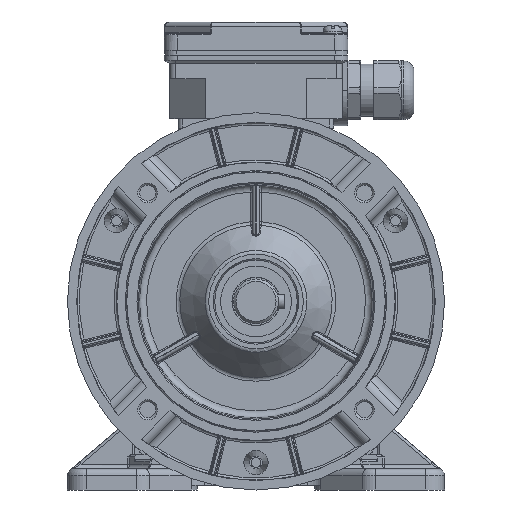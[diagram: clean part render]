
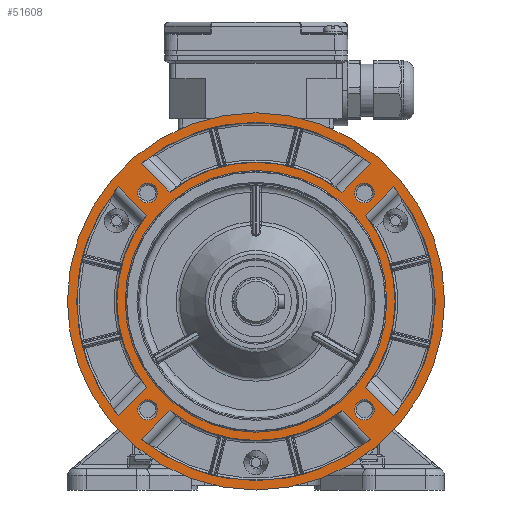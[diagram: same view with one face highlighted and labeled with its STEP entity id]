
A CAD part, left-side view. The second image highlights one B-rep face of the part: STEP entity #51608.
In plain terms, the highlighted planar face has unit normal (-1, 0, 0).
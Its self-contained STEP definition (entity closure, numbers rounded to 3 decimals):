
#5189=LINE('',#105667,#8837);
#5190=LINE('',#105676,#8838);
#5191=LINE('',#105695,#8839);
#5192=LINE('',#105704,#8840);
#5193=LINE('',#105711,#8841);
#5194=LINE('',#105730,#8842);
#5195=LINE('',#105751,#8843);
#5196=LINE('',#105760,#8844);
#8837=VECTOR('',#87304,1000.);
#8838=VECTOR('',#87311,1000.);
#8839=VECTOR('',#87318,1000.);
#8840=VECTOR('',#87325,1000.);
#8841=VECTOR('',#87328,1000.);
#8842=VECTOR('',#87335,1000.);
#8843=VECTOR('',#87346,1000.);
#8844=VECTOR('',#87353,1000.);
#10729=PLANE('',#76626);
#21807=ORIENTED_EDGE('',*,*,#32567,.T.);
#21808=ORIENTED_EDGE('',*,*,#32326,.T.);
#21809=ORIENTED_EDGE('',*,*,#32325,.T.);
#21810=ORIENTED_EDGE('',*,*,#32324,.T.);
#21811=ORIENTED_EDGE('',*,*,#32323,.T.);
#21812=ORIENTED_EDGE('',*,*,#32322,.T.);
#21813=ORIENTED_EDGE('',*,*,#32321,.T.);
#21814=ORIENTED_EDGE('',*,*,#32319,.T.);
#21815=ORIENTED_EDGE('',*,*,#32318,.F.);
#21816=ORIENTED_EDGE('',*,*,#32315,.F.);
#21817=ORIENTED_EDGE('',*,*,#32313,.T.);
#21818=ORIENTED_EDGE('',*,*,#32312,.F.);
#21819=ORIENTED_EDGE('',*,*,#32309,.F.);
#21820=ORIENTED_EDGE('',*,*,#32307,.T.);
#21821=ORIENTED_EDGE('',*,*,#32305,.T.);
#21822=ORIENTED_EDGE('',*,*,#32303,.T.);
#21823=ORIENTED_EDGE('',*,*,#32302,.F.);
#21824=ORIENTED_EDGE('',*,*,#32299,.F.);
#21825=ORIENTED_EDGE('',*,*,#32297,.T.);
#21826=ORIENTED_EDGE('',*,*,#32295,.T.);
#21827=ORIENTED_EDGE('',*,*,#32294,.F.);
#21828=ORIENTED_EDGE('',*,*,#32291,.F.);
#32291=EDGE_CURVE('',#38474,#38475,#41857,.T.);
#32294=EDGE_CURVE('',#38475,#38476,#5189,.T.);
#32295=EDGE_CURVE('',#38477,#38476,#41858,.T.);
#32297=EDGE_CURVE('',#38474,#38477,#5190,.T.);
#32299=EDGE_CURVE('',#38478,#38479,#41859,.T.);
#32302=EDGE_CURVE('',#38479,#38480,#5191,.T.);
#32303=EDGE_CURVE('',#38481,#38480,#41860,.T.);
#32305=EDGE_CURVE('',#38478,#38481,#5192,.T.);
#32307=EDGE_CURVE('',#38483,#38482,#5193,.T.);
#32309=EDGE_CURVE('',#38483,#38484,#41861,.T.);
#32312=EDGE_CURVE('',#38484,#38485,#5194,.T.);
#32313=EDGE_CURVE('',#38482,#38485,#41862,.T.);
#32315=EDGE_CURVE('',#38486,#38487,#41863,.T.);
#32318=EDGE_CURVE('',#38487,#38488,#5195,.T.);
#32319=EDGE_CURVE('',#38489,#38488,#41864,.T.);
#32321=EDGE_CURVE('',#38486,#38489,#5196,.T.);
#32322=EDGE_CURVE('',#38490,#38490,#41865,.T.);
#32323=EDGE_CURVE('',#38491,#38491,#41866,.F.);
#32324=EDGE_CURVE('',#38492,#38492,#41867,.F.);
#32325=EDGE_CURVE('',#38493,#38493,#41868,.F.);
#32326=EDGE_CURVE('',#38494,#38494,#41869,.F.);
#32567=EDGE_CURVE('',#38627,#38627,#41934,.F.);
#38474=VERTEX_POINT('',#105654);
#38475=VERTEX_POINT('',#105656);
#38476=VERTEX_POINT('',#105666);
#38477=VERTEX_POINT('',#105670);
#38478=VERTEX_POINT('',#105682);
#38479=VERTEX_POINT('',#105684);
#38480=VERTEX_POINT('',#105694);
#38481=VERTEX_POINT('',#105698);
#38482=VERTEX_POINT('',#105710);
#38483=VERTEX_POINT('',#105712);
#38484=VERTEX_POINT('',#105719);
#38485=VERTEX_POINT('',#105729);
#38486=VERTEX_POINT('',#105738);
#38487=VERTEX_POINT('',#105740);
#38488=VERTEX_POINT('',#105750);
#38489=VERTEX_POINT('',#105754);
#38490=VERTEX_POINT('',#105763);
#38491=VERTEX_POINT('',#105766);
#38492=VERTEX_POINT('',#105769);
#38493=VERTEX_POINT('',#105772);
#38494=VERTEX_POINT('',#105775);
#38627=VERTEX_POINT('',#106418);
#41857=CIRCLE('',#76407,76.);
#41858=CIRCLE('',#76410,59.);
#41859=CIRCLE('',#76413,76.);
#41860=CIRCLE('',#76416,59.);
#41861=CIRCLE('',#76420,76.);
#41862=CIRCLE('',#76423,59.);
#41863=CIRCLE('',#76425,76.);
#41864=CIRCLE('',#76428,59.);
#41865=CIRCLE('',#76431,80.);
#41866=CIRCLE('',#76433,4.2);
#41867=CIRCLE('',#76435,4.2);
#41868=CIRCLE('',#76437,4.2);
#41869=CIRCLE('',#76439,4.2);
#41934=CIRCLE('',#76627,55.5);
#44901=EDGE_LOOP('',(#21807));
#44902=EDGE_LOOP('',(#21808));
#44903=EDGE_LOOP('',(#21809));
#44904=EDGE_LOOP('',(#21810));
#44905=EDGE_LOOP('',(#21811));
#44906=EDGE_LOOP('',(#21812));
#44907=EDGE_LOOP('',(#21813,#21814,#21815,#21816));
#44908=EDGE_LOOP('',(#21817,#21818,#21819,#21820));
#44909=EDGE_LOOP('',(#21821,#21822,#21823,#21824));
#44910=EDGE_LOOP('',(#21825,#21826,#21827,#21828));
#48384=FACE_BOUND('',#44901,.T.);
#48385=FACE_BOUND('',#44902,.T.);
#48386=FACE_BOUND('',#44903,.T.);
#48387=FACE_BOUND('',#44904,.T.);
#48388=FACE_BOUND('',#44905,.T.);
#48389=FACE_BOUND('',#44906,.T.);
#48390=FACE_BOUND('',#44907,.T.);
#48391=FACE_BOUND('',#44908,.T.);
#48392=FACE_BOUND('',#44909,.T.);
#48393=FACE_BOUND('',#44910,.T.);
#51608=ADVANCED_FACE('',(#48384,#48385,#48386,#48387,#48388,#48389,#48390,
#48391,#48392,#48393),#10729,.T.);
#76407=AXIS2_PLACEMENT_3D('',#105655,#87300,#87301);
#76410=AXIS2_PLACEMENT_3D('',#105669,#87307,#87308);
#76413=AXIS2_PLACEMENT_3D('',#105683,#87314,#87315);
#76416=AXIS2_PLACEMENT_3D('',#105697,#87321,#87322);
#76420=AXIS2_PLACEMENT_3D('',#105718,#87331,#87332);
#76423=AXIS2_PLACEMENT_3D('',#105732,#87338,#87339);
#76425=AXIS2_PLACEMENT_3D('',#105739,#87342,#87343);
#76428=AXIS2_PLACEMENT_3D('',#105753,#87349,#87350);
#76431=AXIS2_PLACEMENT_3D('',#105762,#87356,#87357);
#76433=AXIS2_PLACEMENT_3D('',#105765,#87360,#87361);
#76435=AXIS2_PLACEMENT_3D('',#105768,#87364,#87365);
#76437=AXIS2_PLACEMENT_3D('',#105771,#87368,#87369);
#76439=AXIS2_PLACEMENT_3D('',#105774,#87372,#87373);
#76626=AXIS2_PLACEMENT_3D('',#106416,#87894,#87895);
#76627=AXIS2_PLACEMENT_3D('',#106417,#87896,#87897);
#87300=DIRECTION('',(-1.,0.,0.));
#87301=DIRECTION('',(0.,0.,1.));
#87304=DIRECTION('',(0.,-0.707,0.707));
#87307=DIRECTION('',(-1.,0.,0.));
#87308=DIRECTION('',(0.,0.,1.));
#87311=DIRECTION('',(0.,-0.707,-0.707));
#87314=DIRECTION('',(-1.,0.,0.));
#87315=DIRECTION('',(0.,0.,1.));
#87318=DIRECTION('',(0.,-0.707,-0.707));
#87321=DIRECTION('',(-1.,0.,0.));
#87322=DIRECTION('',(0.,0.,1.));
#87325=DIRECTION('',(0.,0.707,-0.707));
#87328=DIRECTION('',(0.,-0.707,0.707));
#87331=DIRECTION('',(-1.,0.,0.));
#87332=DIRECTION('',(0.,0.,1.));
#87335=DIRECTION('',(0.,0.707,0.707));
#87338=DIRECTION('',(-1.,0.,0.));
#87339=DIRECTION('',(0.,0.,1.));
#87342=DIRECTION('',(-1.,0.,0.));
#87343=DIRECTION('',(0.,0.,1.));
#87346=DIRECTION('',(0.,0.707,-0.707));
#87349=DIRECTION('',(-1.,0.,0.));
#87350=DIRECTION('',(0.,0.,1.));
#87353=DIRECTION('',(0.,0.707,0.707));
#87356=DIRECTION('',(-1.,0.,0.));
#87357=DIRECTION('',(0.,1.,0.));
#87360=DIRECTION('',(-1.,0.,0.));
#87361=DIRECTION('',(0.,-1.,0.));
#87364=DIRECTION('',(-1.,0.,0.));
#87365=DIRECTION('',(0.,-1.,0.));
#87368=DIRECTION('',(-1.,0.,0.));
#87369=DIRECTION('',(0.,-1.,0.));
#87372=DIRECTION('',(-1.,0.,0.));
#87373=DIRECTION('',(0.,-1.,0.));
#87894=DIRECTION('',(-1.,0.,0.));
#87895=DIRECTION('',(0.,-1.,0.));
#87896=DIRECTION('',(-1.,0.,0.));
#87897=DIRECTION('',(0.,-1.,0.));
#105654=CARTESIAN_POINT('',(-44.8,58.461,48.562));
#105655=CARTESIAN_POINT('',(-44.8,0.,0.));
#105656=CARTESIAN_POINT('',(-44.8,58.461,-48.562));
#105666=CARTESIAN_POINT('',(-44.8,46.374,-36.475));
#105667=CARTESIAN_POINT('',(-44.8,70.057,-60.157));
#105669=CARTESIAN_POINT('',(-44.8,0.,0.));
#105670=CARTESIAN_POINT('',(-44.8,46.374,36.475));
#105676=CARTESIAN_POINT('',(-44.8,70.057,60.157));
#105682=CARTESIAN_POINT('',(-44.8,-48.562,58.461));
#105683=CARTESIAN_POINT('',(-44.8,0.,0.));
#105684=CARTESIAN_POINT('',(-44.8,48.562,58.461));
#105694=CARTESIAN_POINT('',(-44.8,36.475,46.374));
#105695=CARTESIAN_POINT('',(-44.8,60.157,70.057));
#105697=CARTESIAN_POINT('',(-44.8,0.,0.));
#105698=CARTESIAN_POINT('',(-44.8,-36.475,46.374));
#105704=CARTESIAN_POINT('',(-44.8,-60.157,70.057));
#105710=CARTESIAN_POINT('',(-44.8,36.475,-46.374));
#105711=CARTESIAN_POINT('',(-44.8,60.157,-70.057));
#105712=CARTESIAN_POINT('',(-44.8,48.562,-58.461));
#105718=CARTESIAN_POINT('',(-44.8,0.,0.));
#105719=CARTESIAN_POINT('',(-44.8,-48.562,-58.461));
#105729=CARTESIAN_POINT('',(-44.8,-36.475,-46.374));
#105730=CARTESIAN_POINT('',(-44.8,-60.157,-70.057));
#105732=CARTESIAN_POINT('',(-44.8,0.,0.));
#105738=CARTESIAN_POINT('',(-44.8,-58.461,-48.562));
#105739=CARTESIAN_POINT('',(-44.8,0.,0.));
#105740=CARTESIAN_POINT('',(-44.8,-58.461,48.562));
#105750=CARTESIAN_POINT('',(-44.8,-46.374,36.475));
#105751=CARTESIAN_POINT('',(-44.8,-70.057,60.157));
#105753=CARTESIAN_POINT('',(-44.8,0.,0.));
#105754=CARTESIAN_POINT('',(-44.8,-46.374,-36.475));
#105760=CARTESIAN_POINT('',(-44.8,-70.057,-60.157));
#105762=CARTESIAN_POINT('',(-44.8,0.,0.));
#105763=CARTESIAN_POINT('',(-44.8,80.,0.));
#105765=CARTESIAN_POINT('',(-44.8,45.962,-45.962));
#105766=CARTESIAN_POINT('',(-44.8,41.762,-45.962));
#105768=CARTESIAN_POINT('',(-44.8,45.962,45.962));
#105769=CARTESIAN_POINT('',(-44.8,41.762,45.962));
#105771=CARTESIAN_POINT('',(-44.8,-45.962,45.962));
#105772=CARTESIAN_POINT('',(-44.8,-50.162,45.962));
#105774=CARTESIAN_POINT('',(-44.8,-45.962,-45.962));
#105775=CARTESIAN_POINT('',(-44.8,-50.162,-45.962));
#106416=CARTESIAN_POINT('',(-44.8,0.,0.));
#106417=CARTESIAN_POINT('',(-44.8,0.,0.));
#106418=CARTESIAN_POINT('',(-44.8,-55.5,0.));
